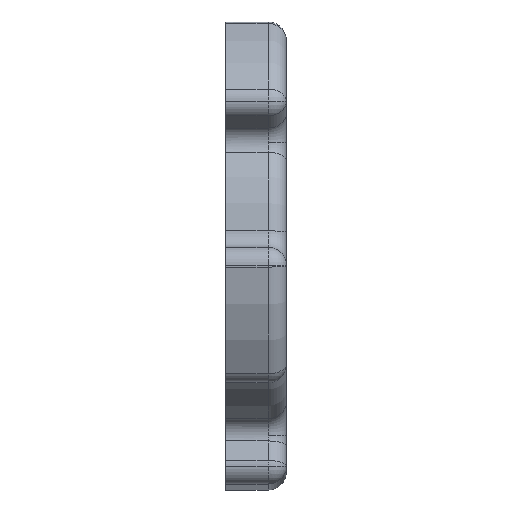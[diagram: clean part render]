
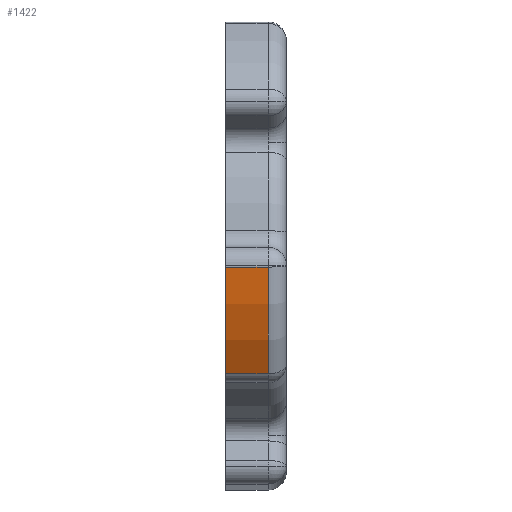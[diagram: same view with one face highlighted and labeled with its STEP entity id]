
A CAD part, top view. The second image highlights one B-rep face of the part: STEP entity #1422.
In plain terms, the highlighted cylindrical face has radius 25.4 mm (diameter 50.8 mm), a partial arc.
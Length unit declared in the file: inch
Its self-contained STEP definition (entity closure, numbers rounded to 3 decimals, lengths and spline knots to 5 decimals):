
#590 = CARTESIAN_POINT ( 'NONE',  ( 1.675, -0.52025, 0.85401 ) ) ;
#635 = DIRECTION ( 'NONE',  ( -1., 0., 0. ) ) ;
#705 = EDGE_CURVE ( 'NONE', #5376, #3849, #1608, .T. ) ;
#713 = LINE ( 'NONE', #4990, #4737 ) ;
#757 = DIRECTION ( 'NONE',  ( 0., 0., -1. ) ) ;
#881 = ORIENTED_EDGE ( 'NONE', *, *, #705, .T. ) ;
#1139 = CARTESIAN_POINT ( 'NONE',  ( 1.75, 0., 0. ) ) ;
#1144 = DIRECTION ( 'NONE',  ( -1., 0., 0. ) ) ;
#1241 = CARTESIAN_POINT ( 'NONE',  ( 1.675, -0.08108, 0.99671 ) ) ;
#1283 = DIRECTION ( 'NONE',  ( 0., 0., 1. ) ) ;
#1422 = ADVANCED_FACE ( 'NONE', ( #4228 ), #2118, .T. ) ;
#1517 = CARTESIAN_POINT ( 'NONE',  ( 1.5, 0., 0. ) ) ;
#1551 = ORIENTED_EDGE ( 'NONE', *, *, #4657, .T. ) ;
#1608 = CIRCLE ( 'NONE', #4346, 1. ) ;
#1657 = CARTESIAN_POINT ( 'NONE',  ( 1.5, -0.52025, 0.85401 ) ) ;
#1858 = EDGE_CURVE ( 'NONE', #2879, #2663, #2566, .T. ) ;
#2118 = CYLINDRICAL_SURFACE ( 'NONE', #3312, 1. ) ;
#2167 = LINE ( 'NONE', #4227, #5026 ) ;
#2318 = DIRECTION ( 'NONE',  ( 0., 0., -1. ) ) ;
#2566 = CIRCLE ( 'NONE', #5396, 1. ) ;
#2663 = VERTEX_POINT ( 'NONE', #3379 ) ;
#2879 = VERTEX_POINT ( 'NONE', #1657 ) ;
#3020 = EDGE_CURVE ( 'NONE', #2879, #5376, #2167, .T. ) ;
#3312 = AXIS2_PLACEMENT_3D ( 'NONE', #1139, #3807, #1283 ) ;
#3379 = CARTESIAN_POINT ( 'NONE',  ( 1.5, -0.08108, 0.99671 ) ) ;
#3466 = DIRECTION ( 'NONE',  ( 1., 0., 0. ) ) ;
#3482 = DIRECTION ( 'NONE',  ( -1., 0., 0. ) ) ;
#3498 = ORIENTED_EDGE ( 'NONE', *, *, #3020, .T. ) ;
#3755 = EDGE_LOOP ( 'NONE', ( #4733, #3498, #881, #1551 ) ) ;
#3779 = CARTESIAN_POINT ( 'NONE',  ( 1.675, 0., 0. ) ) ;
#3807 = DIRECTION ( 'NONE',  ( -1., 0., 0. ) ) ;
#3849 = VERTEX_POINT ( 'NONE', #1241 ) ;
#4227 = CARTESIAN_POINT ( 'NONE',  ( 1.75, -0.52025, 0.85401 ) ) ;
#4228 = FACE_OUTER_BOUND ( 'NONE', #3755, .T. ) ;
#4346 = AXIS2_PLACEMENT_3D ( 'NONE', #3779, #3482, #757 ) ;
#4657 = EDGE_CURVE ( 'NONE', #3849, #2663, #713, .T. ) ;
#4733 = ORIENTED_EDGE ( 'NONE', *, *, #1858, .F. ) ;
#4737 = VECTOR ( 'NONE', #1144, 39.37008 ) ;
#4990 = CARTESIAN_POINT ( 'NONE',  ( 1.75, -0.08108, 0.99671 ) ) ;
#5026 = VECTOR ( 'NONE', #3466, 39.37008 ) ;
#5376 = VERTEX_POINT ( 'NONE', #590 ) ;
#5396 = AXIS2_PLACEMENT_3D ( 'NONE', #1517, #635, #2318 ) ;
